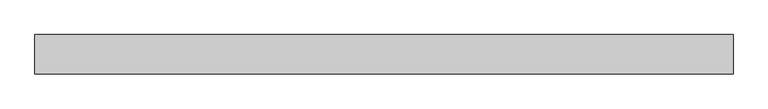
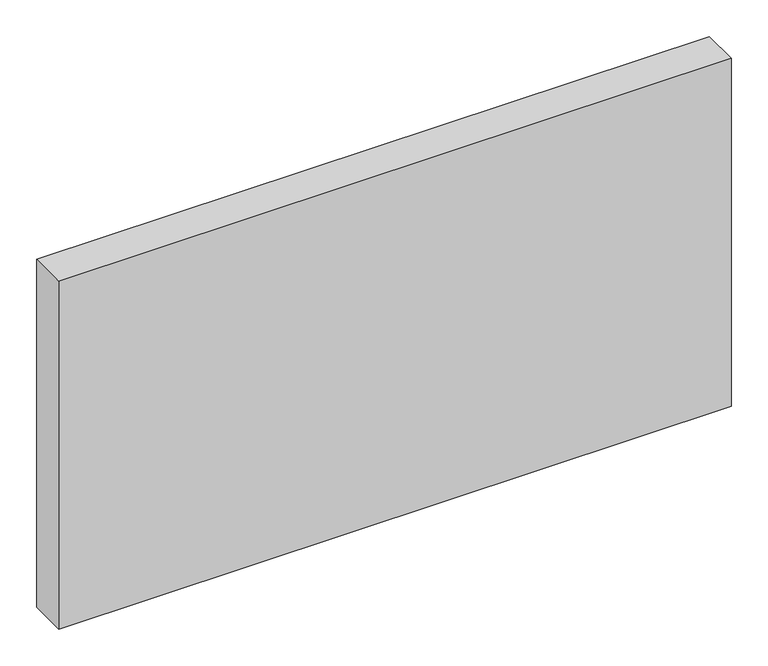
"""IFC4 building model written with IfcOpenShell, lengths in millimetres: plate geometry, Системная панель : Алюкобонд серый."""

import ifcopenshell
import ifcopenshell.guid

model = None  # the IFC model being written
_history = None  # IfcOwnerHistory: only IFC2X3 demands one
_inside = {}  # id of a spatial element -> (the spatial element, [elements in it])
_under = {}  # id of a project, library or spatial element -> (it, [spatial elements below it])
_declared = {}  # id of a project -> (the project, [libraries it declares])
_typed = {}  # id of a type object -> (the type object, [elements of that type])
_made_of = {}  # id of a material, layer set ... -> (it, [elements and type objects made of it])


def new_model(schema):
    """Start an empty IFC model of exactly this schema.

    Asked for "IFC4X3", IfcOpenShell would pick the latest addendum, in which some entities
    have other attributes; the version numbers below select the first issue.
    IFC2X3 requires an IfcOwnerHistory on every rooted entity: one is made here for all.
    """
    global model, _history
    if schema == "IFC4X3":
        model = ifcopenshell.file(schema_version=(4, 3, 0, 0))
    else:
        model = ifcopenshell.file(schema=schema)
    _inside.clear()
    _under.clear()
    _declared.clear()
    _typed.clear()
    _made_of.clear()
    _history = None
    if model.schema == "IFC2X3":
        org = make("IfcOrganization", Name="unknown")
        user = make(
            "IfcPersonAndOrganization",
            ThePerson=make("IfcPerson", FamilyName="unknown"),
            TheOrganization=org,
        )
        app = make(
            "IfcApplication",
            ApplicationDeveloper=org,
            Version="unknown",
            ApplicationFullName="unknown",
            ApplicationIdentifier="unknown",
        )
        _history = make(
            "IfcOwnerHistory",
            OwningUser=user,
            OwningApplication=app,
            ChangeAction="ADDED",
            CreationDate=0,
        )
    return model


def make(cls, **values):
    """One entity of the class cls with the attributes given. An attribute that is None is left unset."""
    return model.create_entity(
        cls, **{name: value for name, value in values.items() if value is not None}
    )


def rooted(cls, **values):
    """An entity with a GlobalId (a new one), such as an element, a storey or a relation."""
    return make(cls, GlobalId=ifcopenshell.guid.new(), OwnerHistory=_history, **values)


def si_unit(unit_type, name, prefix=None):
    """IfcSIUnit, for example si_unit("LENGTHUNIT", "METRE", prefix="MILLI")."""
    return make("IfcSIUnit", UnitType=unit_type, Prefix=prefix, Name=name)


def assignment(units):
    """IfcUnitAssignment: the units of a project."""
    return None if units is None else make("IfcUnitAssignment", Units=units)


def point(xyz):
    """IfcCartesianPoint."""
    return None if xyz is None else make("IfcCartesianPoint", Coordinates=xyz)


def direction(xyz):
    """IfcDirection."""
    return None if xyz is None else make("IfcDirection", DirectionRatios=xyz)


def frame(location, z_axis=None, x_axis=None):
    """IfcAxis2Placement3D, a coordinate frame: its origin and axes. An axis left out is left unset."""
    return make(
        "IfcAxis2Placement3D",
        Location=point(location),
        Axis=direction(z_axis),
        RefDirection=direction(x_axis),
    )


def origin():
    """The frame at (0, 0, 0) with its axes left unset."""
    return frame((0.0, 0.0, 0.0))


def origin_with_axes():
    """The frame at (0, 0, 0) with the z axis (0, 0, 1) and the x axis (1, 0, 0) written out."""
    return frame((0.0, 0.0, 0.0), z_axis=(0.0, 0.0, 1.0), x_axis=(1.0, 0.0, 0.0))


def place(relative_to, where):
    """IfcLocalPlacement: puts the frame where relative to a parent placement (None: the world)."""
    return make(
        "IfcLocalPlacement", PlacementRelTo=relative_to, RelativePlacement=where
    )


def context(
    kind, dimensions, precision=None, world=None, true_north=None, identifier=None
):
    """IfcGeometricRepresentationContext, for example the 3D "Model" context."""
    return make(
        "IfcGeometricRepresentationContext",
        ContextIdentifier=identifier,
        ContextType=kind,
        CoordinateSpaceDimension=dimensions,
        Precision=precision,
        WorldCoordinateSystem=world,
        TrueNorth=true_north,
    )


def project(units=None, contexts=None):
    """IfcProject with its units and contexts."""
    return rooted(
        "IfcProject",
        Name="project",
        RepresentationContexts=contexts,
        UnitsInContext=assignment(units),
    )


def spatial(cls, under=None, at=None, **own):
    """A site, building, storey or space (cls), placed at a placement, below another one or the project."""
    s = rooted(cls, ObjectPlacement=at, **own)
    if under is not None:
        _under.setdefault(under.id(), (under, []))[1].append(s)
    return s


def polyline(points):
    """IfcPolyline through the points."""
    return make("IfcPolyline", Points=[point(p) for p in points])


def outline(outer, holes=None, kind="AREA"):
    """IfcArbitraryClosedProfileDef: a profile drawn as a closed curve; with holes, ...WithVoids."""
    if holes is None:
        return make("IfcArbitraryClosedProfileDef", ProfileType=kind, OuterCurve=outer)
    return make(
        "IfcArbitraryProfileDefWithVoids",
        ProfileType=kind,
        OuterCurve=outer,
        InnerCurves=holes,
    )


def extrude(swept, where, along, depth):
    """IfcExtrudedAreaSolid: the profile swept, set in the frame where, extruded along a direction by depth."""
    return make(
        "IfcExtrudedAreaSolid",
        SweptArea=swept,
        Position=where,
        ExtrudedDirection=direction(along),
        Depth=depth,
    )


def shape(context_of_items, identifier, shape_type, items):
    """IfcShapeRepresentation: the items that make up one representation, for example the "Body"."""
    return make(
        "IfcShapeRepresentation",
        ContextOfItems=context_of_items,
        RepresentationIdentifier=identifier,
        RepresentationType=shape_type,
        Items=items,
    )


def source(mapping_origin, context_of_items, identifier, shape_type, items):
    """IfcRepresentationMap: a shape defined once, which mapped items show again and again."""
    return make(
        "IfcRepresentationMap",
        MappingOrigin=mapping_origin,
        MappedRepresentation=shape(context_of_items, identifier, shape_type, items),
    )


def transform(
    local_origin,
    x_axis=None,
    y_axis=None,
    z_axis=None,
    scale=None,
    scale2=None,
    scale3=None,
    uniform=True,
):
    """IfcCartesianTransformationOperator3D, or its non-uniform kind. x_axis, y_axis, z_axis: its Axis1, 2, 3."""
    if uniform:
        return make(
            "IfcCartesianTransformationOperator3D",
            Axis1=direction(x_axis),
            Axis2=direction(y_axis),
            LocalOrigin=point(local_origin),
            Scale=scale,
            Axis3=direction(z_axis),
        )
    return make(
        "IfcCartesianTransformationOperator3DnonUniform",
        Axis1=direction(x_axis),
        Axis2=direction(y_axis),
        LocalOrigin=point(local_origin),
        Scale=scale,
        Axis3=direction(z_axis),
        Scale2=scale2,
        Scale3=scale3,
    )


def mapped(mapping_source, mapping_target):
    """IfcMappedItem: shows the shape of a source again, moved by a transform."""
    return make(
        "IfcMappedItem", MappingSource=mapping_source, MappingTarget=mapping_target
    )


def made_of(thing, what):
    """Note that an element or type object is made of a material, layer set ...; save() writes the relation."""
    if what is not None:
        _made_of.setdefault(what.id(), (what, []))[1].append(thing)
    return thing


def element(
    cls,
    number,
    at=None,
    inside=None,
    cuts=None,
    type_object=None,
    material=None,
    context=None,
    identifier="Body",
    shape_type=None,
    held_by="IfcProductDefinitionShape",
    body=None,
    shapes=None,
    **own,
):
    """One element of the class cls, such as IfcWall. Its Tag is "e" and its number.

    at: its placement. inside: the storey or other place that contains it. cuts: it is an
    opening in that element (IfcRelVoidsElement). A single representation is given by context,
    identifier, shape_type and body (its items); several are given by shapes. held_by: the class
    of the entity that holds the representations. save() writes the other relations.
    """
    e = rooted(cls, Tag="e%d" % number, ObjectPlacement=at, **own)
    if body is not None:
        shapes = [shape(context, identifier, shape_type, body)]
    if shapes is not None:
        e.Representation = make(held_by, Representations=shapes)
    if inside is not None:
        _inside.setdefault(inside.id(), (inside, []))[1].append(e)
    if cuts is not None:
        rooted(
            "IfcRelVoidsElement", RelatingBuildingElement=cuts, RelatedOpeningElement=e
        )
    if type_object is not None:
        _typed.setdefault(type_object.id(), (type_object, []))[1].append(e)
    return made_of(e, material)


def aggregate(whole, parts):
    """IfcRelAggregates: a whole, such as a stair, and the parts it consists of."""
    return rooted("IfcRelAggregates", RelatingObject=whole, RelatedObjects=parts)


def save(model, path):
    """Write the relations noted so far, then the file.

    IfcRelAggregates (storeys below a building ...), IfcRelContainedInSpatialStructure (elements
    in a storey), IfcRelDefinesByType, IfcRelAssociatesMaterial and IfcRelDeclares: one each for
    every whole, place, type object, material and project.
    """
    for whole, parts in _under.values():
        aggregate(whole, parts)
    for where, things in _inside.values():
        rooted(
            "IfcRelContainedInSpatialStructure",
            RelatedElements=things,
            RelatingStructure=where,
        )
    for kind, things in _typed.values():
        rooted("IfcRelDefinesByType", RelatedObjects=things, RelatingType=kind)
    for what, things in _made_of.values():
        rooted("IfcRelAssociatesMaterial", RelatedObjects=things, RelatingMaterial=what)
    for by, libraries in _declared.values():
        rooted("IfcRelDeclares", RelatingContext=by, RelatedDefinitions=libraries)
    model.write(path)


def plate_a63829b2(model_context):
    return source(origin(), model_context, "Body", "SweptSolid", [
        extrude(outline(polyline([(530.5, -49.5), (-530.5, -49.5), (-530.5, 10.5), (530.5, 10.5), (530.5, -49.5)])), origin_with_axes(), (0.0, 0.0, 1.0), 580.0),
    ])


if __name__ == "__main__":
    model = new_model("IFC4")
    model_context = context("Model", 3, world=origin())
    ifc_project = project(units=[si_unit("LENGTHUNIT", "METRE", prefix="MILLI")], contexts=[model_context])
    site = spatial("IfcSite", under=ifc_project)
    building = spatial("IfcBuilding", under=site)
    placement = place(None, origin())
    plate_shape = plate_a63829b2(model_context)
    element("IfcPlate", 1, ObjectType="Системная панель : Алюкобонд серый", at=placement, inside=building, context=model_context, shape_type="MappedRepresentation", body=[
        mapped(plate_shape, transform((0.0, 0.0, 0.0), x_axis=(1.0, 0.0, 0.0), y_axis=(0.0, 1.0, 0.0), z_axis=(0.0, 0.0, 1.0))),
    ])
    save(model, "model.ifc")
